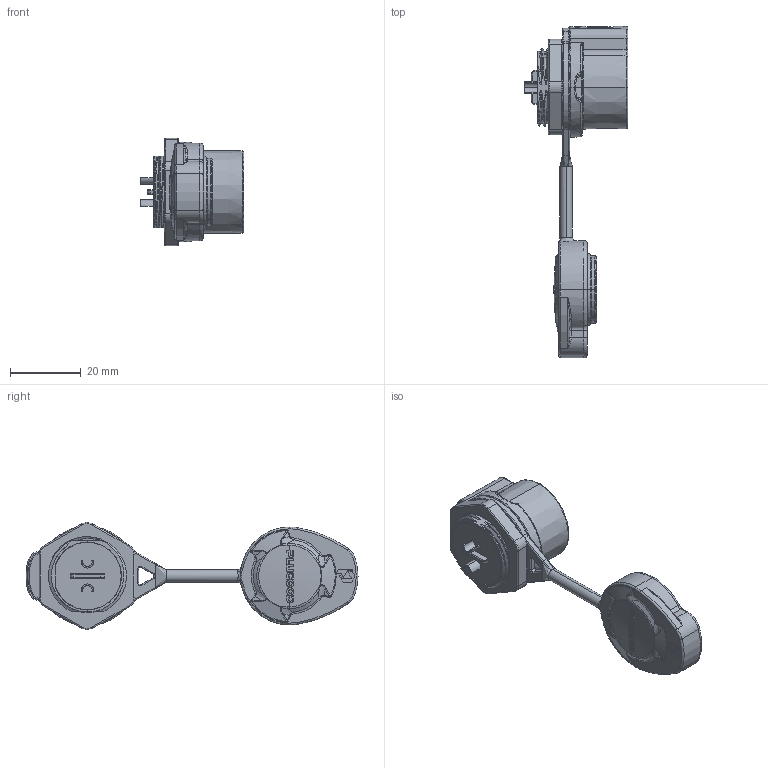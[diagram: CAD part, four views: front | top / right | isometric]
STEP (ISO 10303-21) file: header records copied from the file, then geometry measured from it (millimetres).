
FILE_DESCRIPTION (( 'STEP AP203' ), '1' );
FILE_NAME ('PLG20 2郋等謂脣釱淏蚾.STEP', '2025-11-19T03:48:18', ( '' ), ( '' ), 'SwSTEP 2.0', 'SolidWorks 2024', '' );
FILE_SCHEMA (( 'CONFIG_CONTROL_DESIGN' ));
Length unit declared in the file: millimetre
Products named in the file (1): PLG20 2芯单孔插座正装
Bounding box: 29.2 x 93.63 x 30.25 mm (x, y, z)
Volume: 14788.7 mm3; surface area: 10579.4 mm2
Topology: 1 solids, 1 shells, 1050 faces, 2643 edges, 1611 vertices
Faces by surface type: plane 275, bspline 259, cylinder 216, torus 168, cone 104, sphere 28
Entity records: 48394 total; most frequent: CARTESIAN_POINT 25401, ORIENTED_EDGE 5238, DIRECTION 4257, EDGE_CURVE 2619, AXIS2_PLACEMENT_3D 1723, VERTEX_POINT 1607, EDGE_LOOP 1090, FACE_OUTER_BOUND 1050
